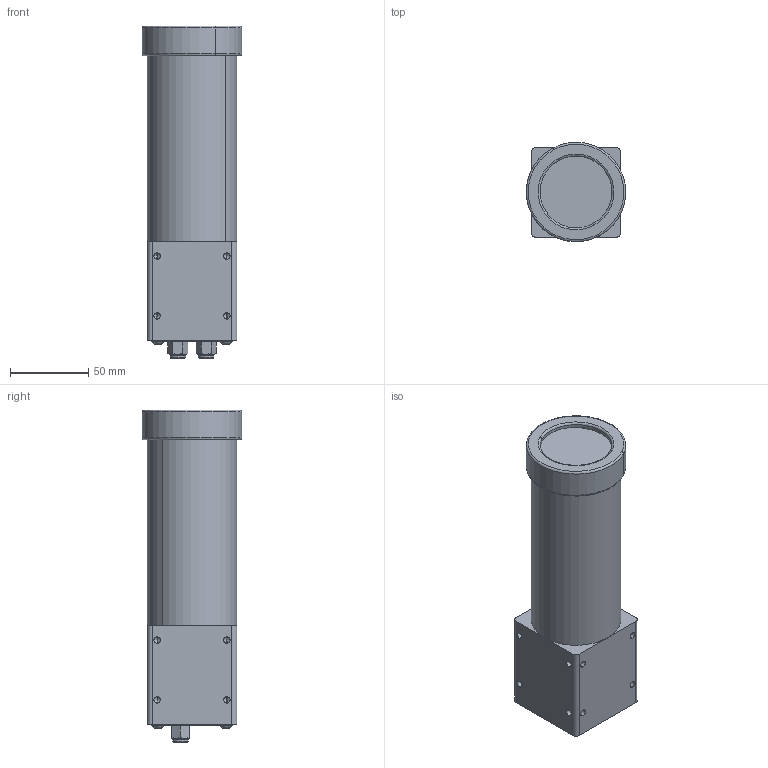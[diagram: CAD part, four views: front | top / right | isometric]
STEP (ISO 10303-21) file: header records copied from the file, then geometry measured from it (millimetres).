
FILE_DESCRIPTION (( 'STEP AP203' ), '1' );
FILE_NAME ('22C-AU.STEP', '2021-10-01T17:14:42', ( '' ), ( '' ), 'SwSTEP 2.0', 'SolidWorks 2021', '' );
FILE_SCHEMA (( 'CONFIG_CONTROL_DESIGN' ));
Length unit declared in the file: inch
Products named in the file (14): 200427; 200730; KQ2H07-34AS; 91862A212_91862A212; 400301; 9452K93; 200507; 200511; 22C-AU; 400303; 200508; 91292A121_91292A121; 500129; 92095A188_92095A188
Assembly tree (19 placements, depth 2):
  22C-AU
    200427
    9452K93
    500129
    200507
    200508
    400301
    400303
    200730
    200511
    92095A188_92095A188  x4
    KQ2H07-34AS  x2
    91862A212_91862A212  x2
    91292A121_91292A121  x2
Bounding box: 63.46 x 63.46 x 211.65 mm (x, y, z)
Volume: 201083.2 mm3; surface area: 116897.8 mm2
Topology: 19 solids, 19 shells, 1048 faces, 2664 edges, 1650 vertices
Faces by surface type: cylinder 594, cone 216, plane 188, bspline 24, torus 18, sphere 8
Entity records: 28309 total; most frequent: CARTESIAN_POINT 10726, ORIENTED_EDGE 3426, DIRECTION 3330, EDGE_CURVE 1713, AXIS2_PLACEMENT_3D 1324, VERTEX_POINT 1074, EDGE_LOOP 777, ADVANCED_FACE 688
